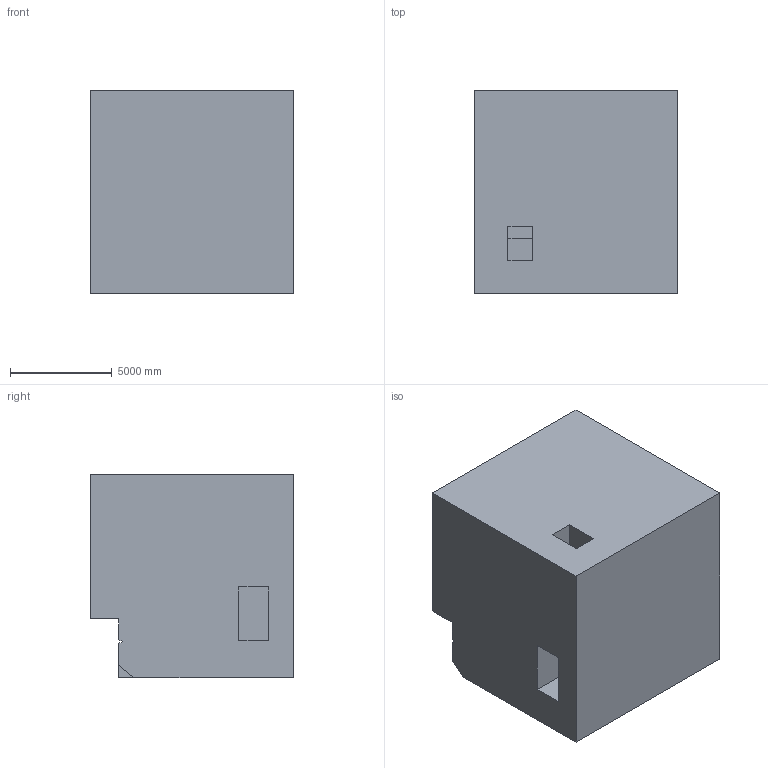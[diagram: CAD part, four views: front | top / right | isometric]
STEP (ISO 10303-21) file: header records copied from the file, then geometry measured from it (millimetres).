
FILE_DESCRIPTION (( 'STEP AP203' ), '1' );
FILE_NAME ('284.STEP', '2022-09-07T12:37:00', ( 'user' ), ( '' ), 'SwSTEP 2.0', 'SolidWorks 2021', '' );
FILE_SCHEMA (( 'CONFIG_CONTROL_DESIGN' ));
Length unit declared in the file: centimetre
Products named in the file (1): 284
Bounding box: 10000 x 10000 x 10000 mm (x, y, z)
Volume: 915370390746.3 mm3; surface area: 689640251.7 mm2
Topology: 1 solids, 1 shells, 23 faces, 63 edges, 42 vertices
Faces by surface type: plane 23
Entity records: 798 total; most frequent: CARTESIAN_POINT 129, ORIENTED_EDGE 126, DIRECTION 111, EDGE_CURVE 63, LINE 63, VECTOR 63, VERTEX_POINT 42, EDGE_LOOP 25
